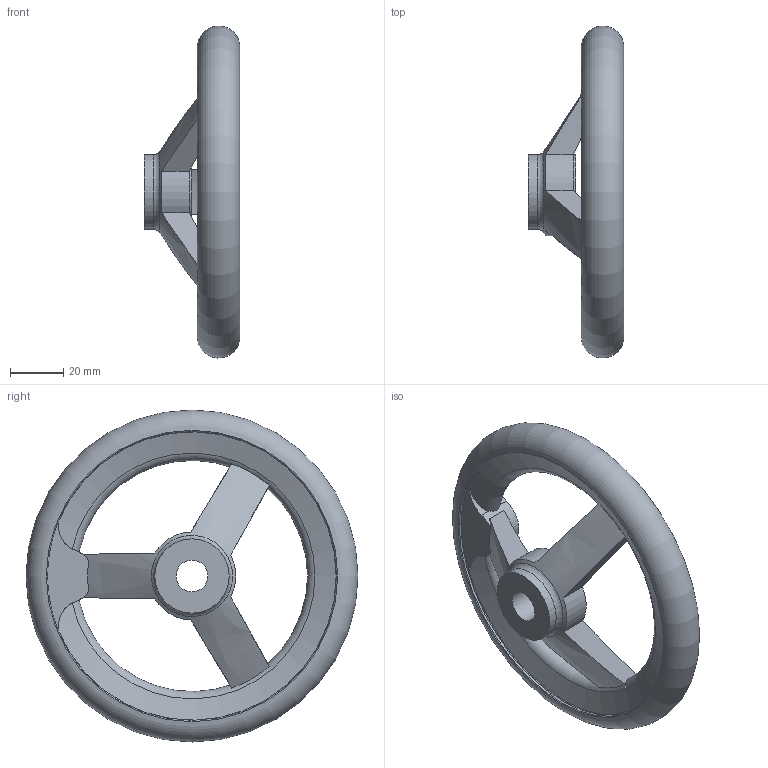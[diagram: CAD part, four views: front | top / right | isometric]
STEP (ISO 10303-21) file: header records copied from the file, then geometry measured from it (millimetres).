
FILE_DESCRIPTION( ( 'STEP AP203' ), '1' );
FILE_NAME( 'C:/Temp/Ganter_Step_05_03_2020/data/1_3/din_950/din_950_b/din_950_b_a/Handwheel DIN 950-AL-125-B12-A.stp', '2020-03-05T10:29:15', ( 'License CC BY-ND 4.0' ), ( 'CADENAS' ), ' ', 'PARTsolutions', ' ' );
FILE_SCHEMA( ( 'CONFIG_CONTROL_DESIGN' ) );
Length unit declared in the file: millimetre
Products named in the file (1): _Handwheel DIN 950-AL-125-B12-A
Bounding box: 36 x 124.99 x 124.99 mm (x, y, z)
Volume: 93509.7 mm3; surface area: 26665.1 mm2
Topology: 1 solids, 1 shells, 37 faces, 107 edges, 68 vertices
Faces by surface type: cylinder 13, torus 10, plane 10, cone 4
Full cylindrical faces by diameter (mm): 12 x1, 28 x2, 109 x2
Entity records: 1476 total; most frequent: CARTESIAN_POINT 563, ORIENTED_EDGE 178, DIRECTION 168, EDGE_CURVE 89, AXIS2_PLACEMENT_3D 78, VERTEX_POINT 65, EDGE_LOOP 55, FACE_OUTER_BOUND 49
